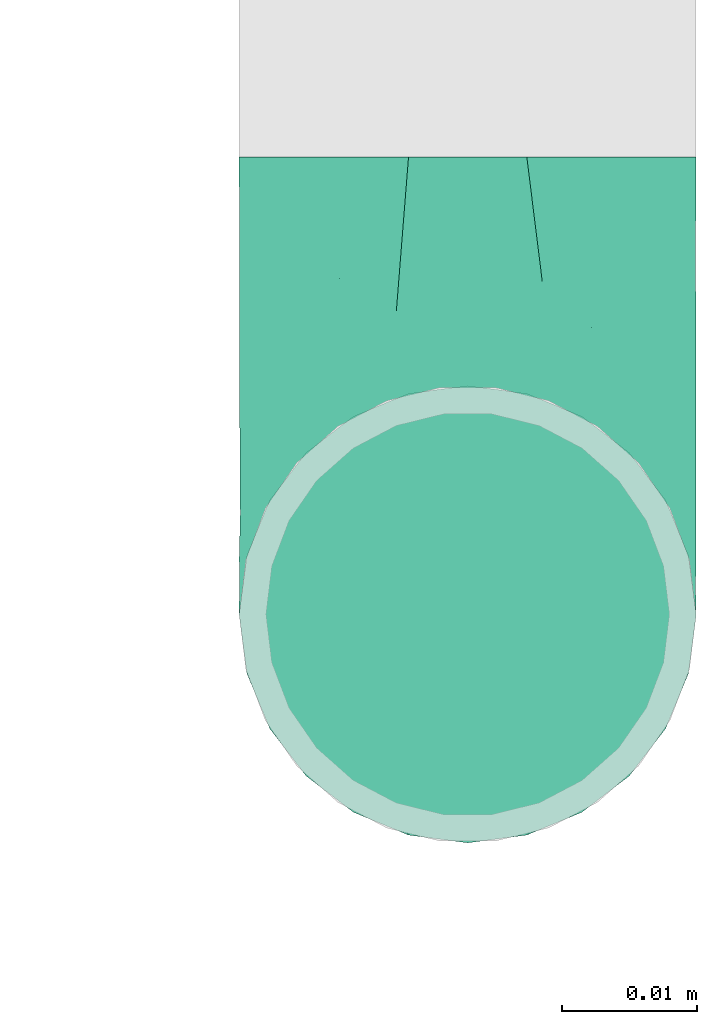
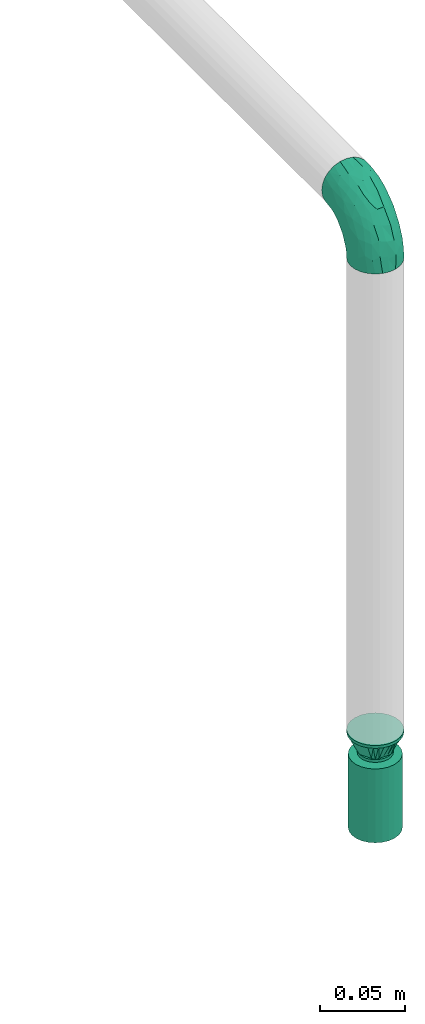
# One storey, part 14 of 17: 2 flow fittings, 1 flow terminal.
"""IFC2X3 building model written with IfcOpenShell, lengths in millimetres."""

from ifc_helpers import new_model, entity, si_unit, converted_unit, derived_unit, direction, frame, origin_with_axes, place, context, subcontext, project, spatial, open_shell, surface_model, source, transform, mapped, type_object, element, save


model = new_model("IFC2X3")

# Units and contexts
model_context = context("Model", 3, precision=0.01, world=frame((0.0, 4.29681676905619e-09, 0.0)), true_north=direction((4.01073788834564e-13, 1.0)))
plan_context = context("Plan", 3, precision=0.01, world=frame((0.0, 4.29681676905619e-09, 0.0)), true_north=direction((4.01073788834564e-13, 1.0)))
body_context = subcontext(model_context, "Body", "Model", "MODEL_VIEW")
ifc_project = project(units=[converted_unit("PLANEANGLEUNIT", "DEGREE", entity("IfcPositiveLengthMeasure", 0.0174532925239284), si_unit("PLANEANGLEUNIT", "RADIAN"), dimensions=[0, 0, 0, 0, 0, 0, 0]), si_unit("AREAUNIT", "SQUARE_METRE"), si_unit("LENGTHUNIT", "METRE", prefix="MILLI"), si_unit("MASSUNIT", "GRAM", prefix="KILO"), si_unit("POWERUNIT", "WATT"), si_unit("PRESSUREUNIT", "PASCAL", prefix="KILO"), si_unit("FORCEUNIT", "NEWTON", prefix="KILO"), si_unit("ELECTRICVOLTAGEUNIT", "VOLT"), si_unit("ELECTRICCURRENTUNIT", "AMPERE"), si_unit("THERMODYNAMICTEMPERATUREUNIT", "DEGREE_CELSIUS"), si_unit("TIMEUNIT", "SECOND"), si_unit("VOLUMEUNIT", "CUBIC_METRE"), derived_unit("LINEARVELOCITYUNIT", [(si_unit("LENGTHUNIT", "METRE"), 1), (si_unit("TIMEUNIT", "SECOND"), -1)]), derived_unit("VOLUMETRICFLOWRATEUNIT", [(si_unit("VOLUMEUNIT", "CUBIC_METRE"), 1), (si_unit("TIMEUNIT", "SECOND"), -1)]), derived_unit("THERMALTRANSMITTANCEUNIT", [(si_unit("POWERUNIT", "WATT"), 1), (si_unit("THERMODYNAMICTEMPERATUREUNIT", "KELVIN"), -1), (si_unit("AREAUNIT", "SQUARE_METRE"), -1)]), derived_unit("SOUNDPRESSUREUNIT", [(si_unit("PRESSUREUNIT", "PASCAL"), 1)])], contexts=[model_context, plan_context])

# Site, building, storey
site_placement = place(None, frame((0.0, -4.29681676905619e-09, 0.0), z_axis=(0.0, 0.0, 1.0), x_axis=(1.0, 0.0, 0.0)))
site = spatial("IfcSite", under=ifc_project, at=site_placement, CompositionType="ELEMENT")
building_placement = place(site_placement, frame((0.0, 4.29681676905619e-09, 0.0), z_axis=(0.0, 0.0, 1.0), x_axis=(1.0, 0.0, 0.0)))
building = spatial("IfcBuilding", under=site, at=building_placement, Name="mc-building", CompositionType="ELEMENT")
storey_placement = place(building_placement, frame((0.0, 0.0, 204000.0), z_axis=(0.0, 0.0, 1.0), x_axis=(1.0, 0.0, 0.0)))
storey = spatial("IfcBuildingStorey", under=building, at=storey_placement, Name="Nivå D", CompositionType="ELEMENT", Elevation=204000.0)

# Flow fittings
pipe_fitting_type_1 = type_object("IfcPipeFittingType", Name="magi_pipe_fe_elbow_short_001", PredefinedType="BEND")
shared_shape_1 = source(origin_with_axes(), body_context, "Body", "SurfaceModel", [
    surface_model("IfcShellBasedSurfaceModel", [(-33.8, 8.45, -14.63583), (-33.8, 4.37404, -16.32415), (-33.8, 11.9501, -11.9501), (-33.8, -11.9501, -11.9501), (-33.8, -14.63583, -8.45), (-33.8, -8.45, -14.63583), (-33.8, 0.0, -16.9), (-33.8, -4.37404, -16.32415), (-33.8, -4.37404, 16.32415), (-33.8, 0.0, 16.9), (-33.8, -8.45, 14.63583), (-33.8, 16.32415, -4.37404), (-33.8, 14.63583, -8.45), (-33.8, -16.32415, -4.37404), (-33.8, -16.9, 0.0), (-33.8, -16.32415, 4.37404), (-33.8, 11.9501, 11.9501), (-33.8, 14.63583, 8.45), (-33.8, 16.32415, 4.37404), (-33.8, 4.37404, 16.32415), (-33.8, 8.45, 14.63583), (-33.8, -14.63583, 8.45), (-33.8, -11.9501, 11.9501), (-33.8, 16.9, 0.0), (-11.9501, 33.8, -11.9501), (0.0, 33.8, -16.9), (-4.37404, 33.8, -16.32415), (-8.45, 33.8, -14.63583), (-14.63583, 33.8, -8.45), (-16.32415, 33.8, -4.37404), (14.63583, 33.8, -8.45), (8.45, 33.8, 14.63583), (16.32415, 33.8, -4.37404), (8.45, 33.8, -14.63583), (11.9501, 33.8, -11.9501), (4.37404, 33.8, -16.32415), (16.32415, 33.8, 4.37404), (16.9, 33.8, 0.0), (-11.9501, 33.8, 11.9501), (-16.32415, 33.8, 4.37404), (-14.63583, 33.8, 8.45), (-8.45, 33.8, 14.63583), (-4.37404, 33.8, 16.32415), (11.9501, 33.8, 11.9501), (14.63583, 33.8, 8.45), (0.0, 33.8, 16.9), (4.37404, 33.8, 16.32415), (-16.9, 33.8, 0.0), (-24.79389, -13.12945, 9.48721), (-22.19287, -9.75018, 12.59315), (-24.09897, -14.97035, 0.0), (-14.93934, -10.76256, 8.5297), (-22.46095, -14.75051, 5.27077), (14.75051, 22.46094, 5.27077), (11.9251, 13.23888, 4.33236), (13.04069, 14.39795, 0.0), (7.71387, 13.68847, 11.55891), (9.75018, 22.19287, 12.59315), (4.10169, 13.0571, 14.04018), (-24.84007, -6.39063, 15.2048), (-25.81779, -2.23879, 16.61097), (-23.66549, 2.59054, 16.87119), (-26.50418, 14.06512, 11.08152), (-24.21253, 17.66365, 7.72657), (-29.58514, 15.86957, 7.00283), (-6.17382, -7.5455, 0.0), (-13.23888, -11.9251, 4.33236), (-14.39795, -13.04069, 0.0), (-17.81434, 18.87373, 11.97104), (-6.30846, 29.15138, 15.82987), (-2.31622, 25.28002, 16.85849), (-29.23923, 10.23435, 13.77053), (-1.45439, -2.85688, 7.61475), (-0.28326, 0.34872, 10.09509), (-5.74484, -4.04709, 10.4122), (-4.41137, 11.31918, 16.59407), (-8.39727, 3.10034, 15.7812), (-1.72649, 9.1306, 15.53089), (-17.39909, 24.75344, 7.64977), (-26.19233, 20.0512, 0.0), (-28.14518, 17.29657, 4.25857), (-26.05147, 6.6281, 15.96447), (-5.87354, 16.61944, 16.86968), (-12.51807, 12.51807, 16.48937), (-10.06312, 7.38516, 16.81295), (-3.01882, 3.01882, 13.81718), (-13.0571, -4.10169, 14.04018), (-16.82553, -0.15166, 16.38038), (10.76256, 14.93934, 8.5297), (13.12945, 24.79389, 9.48721), (6.39063, 24.84007, 15.2048), (2.23879, 25.81779, 16.61097), (-13.68847, -7.71387, 11.55891), (14.97035, 24.09897, 0.0), (-7.30894, 22.89991, 16.09489), (-10.67958, 26.17414, 14.008), (-12.78295, 18.26924, 15.06066), (-13.88562, 22.45231, 12.93244), (-18.04944, 15.16501, 14.04434), (-23.11658, 20.08178, 4.02986), (-21.84989, 21.84989, 0.0), (-18.55817, 25.48277, 3.93065), (-13.95142, 26.94732, 11.03289), (-18.57098, 7.23906, 16.59756), (-16.58335, 4.14122, 16.89279), (-17.96666, 11.46709, 15.63151), (-9.84453, 17.54304, 16.18938), (0.15166, 16.82553, 16.38038), (-23.27207, 11.47201, 14.23154), (3.84842, 5.86994, 10.70473), (-8.0212, -7.54413, 7.93275), (1.00345, -2.19508, 4.57414), (5.13203, 3.01004, 5.90201), (5.24161, 1.7543, 2.53265), (8.70457, 7.04947, 3.99182), (-20.0512, 26.19233, 0.0), (8.4852, 8.76699, 7.09296), (-4.55488, -6.72064, 4.90681), (2.05031, -2.05031, 0.0), (7.5455, 6.17382, 0.0), (-26.75399, 2.1369, -16.845), (-14.61995, 24.73803, -11.27736), (-28.45274, -13.45335, -9.81895), (-26.00469, 6.63555, -15.96645), (-23.06726, 20.04573, -4.26202), (-13.80647, -4.26506, -14.17873), (-14.67501, -0.21081, -16.07388), (-6.7902, -0.2828, -13.8478), (-24.53586, 11.08096, -14.13417), (-26.72048, 14.00837, -11.05776), (10.0967, 24.44989, -12.75976), (5.83237, 21.40218, -15.03047), (6.66249, 28.54238, -15.38093), (-20.38182, 15.48705, -12.74596), (12.53268, 21.23441, -9.15363), (12.54494, 15.67504, -5.54878), (9.7522, 12.89279, -8.66343), (-15.65186, 19.64213, -13.01327), (-12.03528, 20.66498, -14.67665), (-15.61907, 15.61906, -14.83879), (-25.56551, -15.26206, 0.0), (-24.65452, -15.12934, -5.50955), (13.45335, 28.45274, -9.81895), (15.12934, 24.65452, -5.50955), (-7.35442, -8.31014, -5.65563), (-15.67504, -12.54494, -5.54878), (-24.44989, -10.0967, -12.75976), (0.16522, 0.41303, -9.71728), (-5.70658, -5.33066, -8.89288), (-5.13869, -2.37198, -11.53565), (-21.23441, -12.53268, -9.15363), (0.71146, 7.93863, -14.09382), (0.21081, 14.67501, -16.07388), (3.49291, 14.42772, -14.76381), (-24.89911, -2.13088, -16.591), (-28.54238, -6.66249, -15.38093), (-18.44386, -7.71663, -13.26957), (2.13088, 24.89911, -16.591), (-28.64342, 17.44413, -2.89318), (1.70017, -1.28722, -5.09504), (-16.57067, 26.81947, -7.36596), (-17.69055, 27.4263, -3.76405), (-12.89279, -9.7522, -8.66343), (-5.96611, 5.96611, -15.95814), (-20.53709, 20.09345, -8.28985), (-2.1369, 26.75399, -16.845), (-6.89872, 24.58781, -16.02578), (-10.60739, 26.53157, -13.98044), (-21.40218, -5.83237, -15.03047), (2.93192, 5.89627, -11.55917), (6.89393, 12.61842, -11.82233), (5.58056, 5.95325, -8.79455), (-3.99512, 18.61798, -16.89635), (8.31014, 7.35442, -5.65563), (-9.1383, 9.86148, -16.89041), (-9.99983, 16.02119, -16.39699), (-16.68576, 9.78031, -16.34199), (-27.01915, 16.61158, -7.12979), (15.26206, 25.56551, 0.0), (-18.61798, 3.99512, -16.89635), (-19.37495, 27.82495, 0.0), (-12.61842, -6.89393, -11.82233), (-18.84705, 19.14018, -10.96545)], [open_shell([[[0, 1, 2]], [[3, 4, 5]], [[6, 7, 5]], [[8, 9, 10]], [[1, 6, 2]], [[11, 12, 2]], [[4, 2, 6]], [[2, 13, 10]], [[5, 4, 6]], [[2, 4, 13]], [[14, 15, 13]], [[11, 2, 16]], [[11, 17, 18]], [[11, 16, 17]], [[19, 20, 16]], [[16, 2, 10]], [[19, 16, 10]], [[21, 22, 15]], [[22, 13, 15]], [[22, 10, 13]], [[10, 9, 19]], [[11, 18, 23]], [[24, 25, 26]], [[24, 26, 27]], [[24, 28, 29]], [[25, 24, 30]], [[31, 32, 24]], [[33, 30, 34]], [[33, 35, 25]], [[25, 30, 33]], [[32, 30, 24]], [[32, 36, 37]], [[38, 24, 29]], [[39, 40, 29]], [[40, 38, 29]], [[38, 41, 42]], [[38, 31, 24]], [[31, 38, 42]], [[36, 43, 44]], [[36, 32, 43]], [[31, 45, 46]], [[32, 31, 43]], [[42, 45, 31]], [[39, 29, 47]], [[22, 48, 49]], [[15, 14, 50]], [[51, 48, 52]], [[53, 54, 55]], [[48, 22, 21]], [[15, 52, 21]], [[56, 57, 58]], [[49, 10, 22]], [[49, 59, 10]], [[9, 60, 61]], [[62, 63, 64]], [[65, 66, 67]], [[57, 43, 31]], [[62, 68, 63]], [[42, 69, 70]], [[20, 71, 16]], [[8, 60, 9]], [[72, 73, 74]], [[75, 76, 77]], [[16, 62, 17]], [[40, 39, 78]], [[79, 23, 80]], [[64, 18, 17]], [[9, 61, 19]], [[19, 81, 20]], [[82, 83, 84]], [[74, 85, 86]], [[59, 86, 87]], [[88, 89, 57]], [[90, 31, 46]], [[44, 53, 36]], [[46, 45, 91]], [[54, 53, 88]], [[44, 89, 53]], [[92, 86, 49]], [[89, 44, 43]], [[10, 59, 8]], [[53, 55, 93]], [[93, 36, 53]], [[66, 52, 67]], [[94, 82, 70]], [[95, 96, 94]], [[97, 98, 96]], [[79, 99, 100]], [[41, 38, 95]], [[101, 100, 99]], [[68, 78, 63]], [[42, 41, 69]], [[23, 18, 80]], [[95, 94, 69]], [[78, 101, 99]], [[38, 102, 95]], [[70, 45, 42]], [[97, 95, 102]], [[15, 50, 52]], [[90, 57, 31]], [[57, 90, 58]], [[81, 19, 61]], [[103, 104, 84]], [[105, 81, 103]], [[38, 40, 102]], [[106, 96, 83]], [[94, 106, 82]], [[91, 70, 107]], [[71, 62, 16]], [[62, 108, 98]], [[86, 59, 49]], [[67, 52, 50]], [[60, 59, 87]], [[92, 49, 51]], [[86, 85, 76]], [[91, 90, 46]], [[37, 36, 93]], [[107, 77, 58]], [[107, 58, 90]], [[58, 85, 109]], [[110, 74, 92]], [[72, 74, 110]], [[66, 51, 52]], [[72, 111, 112]], [[113, 114, 112]], [[56, 88, 57]], [[52, 48, 21]], [[49, 48, 51]], [[57, 89, 43]], [[53, 89, 88]], [[103, 81, 61]], [[71, 81, 108]], [[18, 64, 80]], [[63, 78, 99]], [[47, 115, 101]], [[101, 115, 100]], [[40, 78, 102]], [[68, 102, 78]], [[97, 96, 95]], [[105, 98, 108]], [[103, 84, 83]], [[107, 70, 82]], [[76, 84, 87]], [[82, 84, 75]], [[70, 91, 45]], [[90, 91, 107]], [[59, 60, 8]], [[61, 60, 87]], [[73, 85, 74]], [[109, 112, 116]], [[103, 61, 104]], [[105, 103, 83]], [[96, 105, 83]], [[81, 105, 108]], [[96, 98, 105]], [[62, 98, 68]], [[61, 87, 104]], [[87, 84, 104]], [[86, 76, 87]], [[77, 76, 85]], [[58, 77, 85]], [[75, 77, 107]], [[82, 75, 107]], [[76, 75, 84]], [[81, 71, 20]], [[62, 71, 108]], [[95, 69, 41]], [[70, 69, 94]], [[62, 64, 17]], [[80, 63, 99]], [[63, 80, 64]], [[80, 99, 79]], [[66, 65, 117]], [[110, 66, 117]], [[112, 114, 116]], [[118, 117, 65]], [[110, 92, 51]], [[112, 111, 113]], [[119, 55, 54]], [[74, 86, 92]], [[58, 109, 56]], [[116, 56, 109]], [[66, 110, 51]], [[72, 110, 117]], [[111, 72, 117]], [[73, 112, 109]], [[117, 118, 111]], [[113, 111, 118]], [[118, 119, 113]], [[114, 119, 54]], [[119, 114, 113]], [[116, 54, 88]], [[54, 116, 114]], [[116, 88, 56]], [[112, 73, 72]], [[85, 73, 109]], [[78, 39, 101]], [[47, 101, 39]], [[102, 68, 97]], [[97, 68, 98]], [[82, 106, 83]], [[94, 96, 106]], [[1, 120, 6]], [[28, 24, 121]], [[3, 122, 4]], [[0, 123, 1]], [[100, 124, 79]], [[125, 126, 127]], [[128, 2, 129]], [[130, 131, 132]], [[128, 129, 133]], [[134, 135, 136]], [[137, 138, 139]], [[128, 0, 2]], [[67, 140, 141]], [[134, 142, 143]], [[141, 13, 4]], [[144, 65, 145]], [[146, 3, 5]], [[147, 148, 149]], [[145, 141, 150]], [[151, 152, 153]], [[154, 7, 6]], [[5, 155, 146]], [[150, 146, 156]], [[155, 5, 7]], [[143, 135, 134]], [[35, 157, 25]], [[23, 79, 158]], [[148, 159, 144]], [[160, 161, 29]], [[145, 162, 144]], [[163, 152, 151]], [[29, 28, 160]], [[121, 164, 160]], [[33, 34, 130]], [[25, 165, 26]], [[26, 165, 166]], [[142, 34, 30]], [[24, 27, 167]], [[124, 161, 164]], [[157, 35, 132]], [[155, 154, 168]], [[123, 0, 128]], [[169, 170, 171]], [[172, 157, 152]], [[26, 166, 27]], [[132, 35, 33]], [[142, 130, 34]], [[168, 154, 126]], [[136, 135, 173]], [[133, 137, 139]], [[2, 12, 129]], [[170, 131, 130]], [[30, 32, 143]], [[172, 174, 175]], [[176, 123, 128]], [[158, 177, 11]], [[135, 55, 119]], [[167, 27, 166]], [[175, 166, 172]], [[137, 167, 138]], [[122, 141, 4]], [[140, 14, 13]], [[32, 37, 178]], [[170, 130, 134]], [[152, 157, 131]], [[165, 157, 172]], [[153, 170, 151]], [[152, 163, 174]], [[168, 125, 156]], [[122, 146, 150]], [[120, 154, 6]], [[179, 174, 126]], [[179, 126, 154]], [[126, 163, 127]], [[162, 145, 150]], [[140, 13, 141]], [[32, 178, 143]], [[55, 143, 178]], [[177, 129, 12]], [[128, 133, 139]], [[176, 128, 139]], [[120, 123, 179]], [[121, 160, 28]], [[161, 100, 180]], [[166, 175, 138]], [[121, 24, 167]], [[161, 47, 29]], [[79, 124, 158]], [[124, 164, 177]], [[161, 124, 100]], [[136, 171, 170]], [[127, 163, 151]], [[147, 171, 159]], [[148, 144, 162]], [[127, 151, 169]], [[127, 181, 125]], [[129, 177, 164]], [[12, 11, 177]], [[159, 65, 144]], [[67, 141, 145]], [[143, 55, 135]], [[135, 119, 173]], [[123, 120, 1]], [[154, 120, 179]], [[157, 165, 25]], [[166, 165, 172]], [[172, 152, 174]], [[176, 139, 175]], [[126, 174, 163]], [[176, 174, 179]], [[174, 176, 175]], [[123, 176, 179]], [[150, 181, 162]], [[127, 149, 181]], [[181, 148, 162]], [[159, 148, 147]], [[171, 136, 173]], [[170, 134, 136]], [[159, 171, 173]], [[171, 147, 169]], [[169, 147, 149]], [[151, 170, 169]], [[164, 182, 129]], [[182, 121, 137]], [[181, 149, 148]], [[169, 149, 127]], [[182, 137, 133]], [[167, 137, 121]], [[166, 138, 167]], [[175, 139, 138]], [[129, 182, 133]], [[121, 182, 164]], [[161, 160, 164]], [[47, 161, 180]], [[177, 158, 124]], [[23, 158, 11]], [[130, 132, 33]], [[157, 132, 131]], [[143, 142, 30]], [[130, 142, 134]], [[154, 155, 7]], [[146, 155, 168]], [[146, 122, 3]], [[141, 122, 150]], [[152, 131, 153]], [[159, 119, 118]], [[67, 145, 65]], [[170, 153, 131]], [[119, 159, 173]], [[159, 118, 65]], [[156, 125, 181]], [[126, 125, 168]], [[150, 156, 181]], [[168, 156, 146]]])]),
])
flow_fitting_1_placement = place(storey_placement, frame((602552.91449, 404050.01942, 2790.0), z_axis=(-1.0, 0.0, 0.0), x_axis=(0.0, 0.0, 1.0)))
element("IfcFlowFitting", 1, at=flow_fitting_1_placement, inside=storey, type_object=pipe_fitting_type_1, Name="magi_pipe_fe_elbow_short_001", context=body_context, shape_type="MappedRepresentation", body=[
    mapped(shared_shape_1, transform((0.0, 0.0, 0.0), scale=1.0)),
])
pipe_fitting_type_2 = type_object("IfcPipeFittingType", Name="magi_pipe_fe_reducer_centric_short_NOR", PredefinedType="TRANSITION")
shared_shape_2 = source(origin_with_axes(), body_context, "Body", "SurfaceModel", [
    surface_model("IfcShellBasedSurfaceModel", [(-2.0, -7.56604, -7.56604), (-2.0, -10.33541, -2.76936), (-2.0, -5.35, -9.26647), (-2.0, 5.35, -9.26647), (-2.0, 10.33541, -2.76936), (-2.0, 7.56604, -7.56604), (12.4, 11.9501, 11.9501), (12.4, 0.0, 16.9), (12.4, 11.9501, -11.9501), (12.4, 16.9, 0.0), (0.0, -10.7, 0.0), (0.0, -5.35, 9.26647), (0.0, -5.35, -9.26647), (0.0, 10.7, 0.0), (12.4, 15.66253, -2.98753), (12.4, 8.96258, -13.18758), (0.0, 6.6875, -6.94985), (12.4, -15.66253, -2.98753), (12.4, -16.9, 0.0), (12.4, 5.97505, -14.42505), (0.0, 5.35, -9.26647), (12.4, 14.42505, -5.97505), (0.0, 8.025, -4.63324), (0.0, 9.3625, -2.31662), (0.0, -9.3625, -2.31662), (0.0, -8.025, -4.63324), (12.4, -14.42505, -5.97505), (12.4, 13.18758, -8.96258), (12.4, -13.18758, -8.96258), (12.4, -11.9501, -11.9501), (0.0, -6.6875, -6.94985), (12.4, -8.96258, -13.18758), (12.4, -5.97505, -14.42505), (12.4, -15.66253, 2.98753), (12.4, -8.96258, 13.18758), (0.0, -6.6875, 6.94985), (12.4, -11.9501, 11.9501), (12.4, 15.66253, 2.98753), (12.4, -5.97505, 14.42505), (12.4, -14.42505, 5.97505), (0.0, -8.025, 4.63324), (0.0, -9.3625, 2.31662), (0.0, 9.3625, 2.31662), (0.0, 8.025, 4.63324), (12.4, 14.42505, 5.97505), (12.4, -13.18758, 8.96258), (12.4, 13.18758, 8.96258), (0.0, 6.6875, 6.94985), (12.4, 8.96258, 13.18758), (0.0, 5.35, 9.26647), (12.4, 5.97505, 14.42505), (14.4, 4.37404, -16.32415), (14.4, 8.45, -14.63583), (14.4, 11.9501, -11.9501), (14.4, -8.45, -14.63583), (14.4, 16.32415, -4.37404), (14.4, 16.32415, 4.37404), (14.4, 14.63583, -8.45), (14.4, 0.0, -16.9), (14.4, -4.37404, -16.32415), (14.4, -11.9501, -11.9501), (14.4, -16.32415, -4.37404), (14.4, -14.63583, -8.45), (14.4, -16.32415, 4.37404), (14.4, 16.9, 0.0), (14.4, 14.63583, 8.45), (14.4, 11.9501, 11.9501), (14.4, 4.37404, 16.32415), (14.4, 8.45, 14.63583), (14.4, 0.0, 16.9), (14.4, -14.63583, 8.45), (14.4, -16.9, 0.0), (14.4, -8.45, 14.63583), (14.4, -11.9501, 11.9501), (14.4, -4.37404, 16.32415), (12.4, 4.37404, 16.32415), (12.4, -14.63583, 8.45), (12.4, 16.32415, 4.37404), (12.4, 8.45, 14.63583), (12.4, 14.63583, 8.45), (12.4, -8.45, 14.63583), (12.4, -4.37404, 16.32415), (12.4, -16.32415, 4.37404), (12.4, -16.32415, -4.37404), (12.4, -8.45, -14.63583), (12.4, 16.32415, -4.37404), (12.4, 14.63583, -8.45), (12.4, 8.45, -14.63583), (12.4, 4.37404, -16.32415), (12.4, 0.0, -16.9), (12.4, -14.63583, -8.45), (12.4, -4.37404, -16.32415), (-2.0, 2.76936, 10.33541), (-2.0, 0.0, 10.7), (-2.0, 5.35, 9.26647), (-2.0, 7.56604, 7.56604), (-2.0, 9.26647, 5.35), (-2.0, 10.33541, 2.76936), (-2.0, -10.33541, 2.76936), (-2.0, -2.76936, 10.33541), (-2.0, -7.56604, 7.56604), (-2.0, -5.35, 9.26647), (-2.0, -9.26647, 5.35), (-2.0, -10.7, 0.0), (-2.0, 9.26647, -5.35), (-2.0, 2.76936, -10.33541), (-2.0, -9.26647, -5.35), (-2.0, 0.0, -10.7), (-2.0, -2.76936, -10.33541), (-2.0, 10.7, 0.0), (0.0, 0.0, -10.7), (0.0, 2.76936, -10.33541), (0.0, 10.33541, -2.76936), (0.0, 7.56604, -7.56604), (0.0, -10.33541, -2.76936), (0.0, 9.26647, -5.35), (0.0, 0.0, 10.7), (0.0, -2.76936, -10.33541), (0.0, -7.56604, -7.56604), (0.0, -9.26647, -5.35), (0.0, 10.33541, 2.76936), (0.0, 9.26647, 5.35), (0.0, 7.56604, 7.56604), (0.0, 2.76936, 10.33541), (0.0, -7.56604, 7.56604), (0.0, -10.33541, 2.76936), (0.0, -9.26647, 5.35), (0.0, -2.76936, 10.33541), (0.0, 2.675, -9.26647), (0.0, -2.675, -9.26647), (12.4, 2.98753, -15.66253), (0.0, 0.0, -9.26647), (12.4, -2.98753, -15.66253), (0.0, -2.675, 9.26647), (0.0, 2.675, 9.26647), (12.4, -2.98753, 15.66253), (0.0, 0.0, 9.26647), (12.4, 2.98753, 15.66253)], [open_shell([[[0, 1, 2]], [[3, 4, 5]], [[6, 7, 8]], [[8, 9, 6]], [[10, 11, 12]], [[13, 9, 14]], [[15, 16, 8]], [[17, 18, 10]], [[15, 19, 20]], [[21, 22, 23]], [[24, 25, 26]], [[22, 21, 27]], [[28, 26, 25]], [[29, 30, 31]], [[12, 32, 31]], [[10, 18, 33]], [[34, 35, 36]], [[37, 9, 13]], [[34, 38, 11]], [[39, 40, 41]], [[42, 43, 44]], [[40, 39, 45]], [[46, 44, 43]], [[6, 47, 48]], [[49, 50, 48]], [[51, 52, 53]], [[54, 51, 53]], [[53, 55, 56]], [[55, 53, 57]], [[53, 56, 54]], [[58, 54, 59]], [[58, 51, 54]], [[60, 61, 62]], [[61, 60, 54]], [[54, 63, 61]], [[56, 55, 64]], [[56, 65, 66]], [[56, 66, 67]], [[67, 63, 54]], [[67, 66, 68]], [[63, 67, 69]], [[69, 70, 63]], [[71, 61, 63]], [[70, 72, 73]], [[70, 69, 72]], [[72, 69, 74]], [[54, 56, 67]], [[75, 76, 7]], [[77, 75, 78]], [[6, 79, 77]], [[6, 77, 78]], [[76, 75, 77]], [[80, 76, 36]], [[80, 81, 7]], [[7, 76, 80]], [[82, 76, 77]], [[82, 83, 18]], [[82, 77, 84]], [[77, 85, 8]], [[8, 85, 86]], [[8, 87, 88]], [[84, 77, 8]], [[88, 89, 8]], [[83, 29, 90]], [[29, 83, 84]], [[84, 89, 91]], [[83, 82, 84]], [[8, 89, 84]], [[85, 77, 9]], [[83, 61, 18]], [[90, 62, 83]], [[54, 29, 84]], [[90, 29, 60]], [[59, 84, 91]], [[83, 62, 61]], [[61, 71, 18]], [[59, 54, 84]], [[60, 29, 54]], [[60, 62, 90]], [[58, 59, 91]], [[91, 89, 58]], [[88, 51, 89]], [[87, 52, 88]], [[57, 8, 86]], [[87, 8, 53]], [[55, 86, 85]], [[87, 53, 52]], [[52, 51, 88]], [[64, 55, 85]], [[57, 86, 55]], [[57, 53, 8]], [[9, 64, 85]], [[89, 51, 58]], [[77, 56, 9]], [[79, 65, 77]], [[68, 6, 78]], [[79, 6, 66]], [[67, 78, 75]], [[77, 65, 56]], [[56, 64, 9]], [[67, 68, 78]], [[66, 6, 68]], [[66, 65, 79]], [[69, 67, 75]], [[75, 7, 69]], [[81, 74, 7]], [[80, 72, 81]], [[70, 36, 76]], [[80, 36, 73]], [[63, 76, 82]], [[80, 73, 72]], [[72, 74, 81]], [[71, 63, 82]], [[70, 76, 63]], [[70, 73, 36]], [[18, 71, 82]], [[7, 74, 69]], [[92, 1, 93]], [[94, 1, 92]], [[95, 96, 97]], [[95, 97, 94]], [[98, 93, 1]], [[99, 100, 101]], [[99, 93, 100]], [[100, 98, 102]], [[93, 98, 100]], [[98, 1, 103]], [[94, 97, 1]], [[1, 97, 4]], [[5, 4, 104]], [[4, 3, 1]], [[105, 1, 3]], [[1, 0, 106]], [[2, 107, 108]], [[2, 1, 105]], [[105, 107, 2]], [[4, 97, 109]], [[20, 110, 111]], [[112, 20, 113]], [[114, 20, 112]], [[112, 113, 115]], [[116, 114, 112]], [[110, 12, 117]], [[110, 20, 12]], [[118, 114, 119]], [[114, 118, 12]], [[20, 114, 12]], [[112, 13, 120]], [[120, 121, 122]], [[120, 122, 123]], [[116, 112, 123]], [[123, 122, 49]], [[116, 124, 114]], [[125, 124, 126]], [[10, 114, 125]], [[124, 127, 11]], [[125, 114, 124]], [[127, 124, 116]], [[123, 112, 120]], [[1, 114, 103]], [[106, 119, 1]], [[12, 0, 2]], [[106, 0, 118]], [[117, 2, 108]], [[1, 119, 114]], [[114, 10, 103]], [[117, 12, 2]], [[118, 0, 12]], [[118, 119, 106]], [[110, 117, 108]], [[108, 107, 110]], [[105, 111, 107]], [[3, 20, 105]], [[115, 5, 104]], [[3, 5, 113]], [[112, 104, 4]], [[3, 113, 20]], [[20, 111, 105]], [[13, 112, 4]], [[115, 104, 112]], [[115, 113, 5]], [[109, 13, 4]], [[107, 111, 110]], [[97, 120, 109]], [[96, 121, 97]], [[49, 95, 94]], [[96, 95, 122]], [[123, 94, 92]], [[97, 121, 120]], [[120, 13, 109]], [[123, 49, 94]], [[122, 95, 49]], [[122, 121, 96]], [[116, 123, 92]], [[92, 93, 116]], [[99, 127, 93]], [[101, 11, 99]], [[126, 100, 102]], [[101, 100, 124]], [[125, 102, 98]], [[101, 124, 11]], [[11, 127, 99]], [[10, 125, 98]], [[126, 102, 125]], [[126, 124, 100]], [[103, 10, 98]], [[93, 127, 116]], [[18, 7, 36]], [[18, 29, 8]], [[89, 8, 29]], [[18, 8, 7]], [[13, 11, 49]], [[13, 20, 12]], [[13, 12, 11]], [[24, 26, 17]], [[10, 24, 17]], [[16, 15, 20]], [[30, 12, 31]], [[23, 14, 21]], [[19, 128, 20]], [[27, 8, 16]], [[32, 12, 129]], [[30, 28, 25]], [[130, 131, 128]], [[129, 132, 32]], [[16, 22, 27]], [[13, 14, 23]], [[128, 19, 130]], [[130, 89, 131]], [[131, 132, 129]], [[89, 132, 131]], [[28, 30, 29]], [[42, 44, 37]], [[13, 42, 37]], [[35, 34, 11]], [[47, 49, 48]], [[41, 33, 39]], [[38, 133, 11]], [[45, 36, 35]], [[50, 49, 134]], [[47, 46, 43]], [[135, 136, 133]], [[134, 137, 50]], [[35, 40, 45]], [[10, 33, 41]], [[133, 38, 135]], [[135, 7, 136]], [[136, 137, 134]], [[7, 137, 136]], [[46, 47, 6]]])]),
])
flow_fitting_2_placement = place(storey_placement, frame((602552.91449, 404050.01942, 2403.04800000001), z_axis=(0.0, 1.0, 0.0), x_axis=(0.0, 0.0, 1.0)))
element("IfcFlowFitting", 2, at=flow_fitting_2_placement, inside=storey, type_object=pipe_fitting_type_2, Name="magi_pipe_fe_reducer_centric_short_NOR", context=body_context, shape_type="MappedRepresentation", body=[
    mapped(shared_shape_2, transform((0.0, 0.0, 0.0), scale=1.0)),
])

# Flow terminal
fire_suppression_terminal_type = type_object("IfcFireSuppressionTerminalType", Name="SP-15-K80-68DGR-STD", PredefinedType="NOTDEFINED")
shared_shape_3 = source(origin_with_axes(), body_context, "Body", "SurfaceModel", [
    surface_model("IfcShellBasedSurfaceModel", [(4.1411, -15.45481, 53.0), (8.0, -13.85641, 53.0), (11.31371, -11.31371, 53.0), (-8.0, -13.85641, 53.0), (15.45481, -4.1411, 53.0), (16.0, 0.0, 53.0), (13.85641, -8.0, 53.0), (0.0, -16.0, 53.0), (-4.1411, -15.45481, 53.0), (-13.85641, -8.0, 53.0), (-11.31371, -11.31371, 53.0), (-15.45481, -4.1411, 53.0), (15.45481, 4.1411, 53.0), (13.85641, 8.0, 53.0), (11.31371, 11.31371, 53.0), (-4.1411, 15.45481, 53.0), (8.0, 13.85641, 53.0), (4.1411, 15.45481, 53.0), (0.0, 16.0, 53.0), (-13.85641, 8.0, 53.0), (-15.45481, 4.1411, 53.0), (-16.0, 0.0, 53.0), (-11.31371, 11.31371, 53.0), (-8.0, 13.85641, 53.0), (0.0, 16.0, 0.0), (4.1411, 15.45481, 0.0), (8.0, 13.85641, 0.0), (-4.1411, 15.45481, 0.0), (11.31371, 11.31371, 0.0), (13.85641, 8.0, 0.0), (15.45481, 4.1411, 0.0), (-15.45481, -4.1411, 0.0), (-11.31371, 11.31371, 0.0), (-8.0, 13.85641, 0.0), (-13.85641, 8.0, 0.0), (-15.45481, 4.1411, 0.0), (-16.0, 0.0, 0.0), (4.1411, -15.45481, 0.0), (16.0, 0.0, 0.0), (15.45481, -4.1411, 0.0), (13.85641, -8.0, 0.0), (11.31371, -11.31371, 0.0), (8.0, -13.85641, 0.0), (-8.0, -13.85641, 0.0), (-13.85641, -8.0, 0.0), (-11.31371, -11.31371, 0.0), (0.0, -16.0, 0.0), (-4.1411, -15.45481, 0.0)], [open_shell([[[0, 1, 2]], [[3, 0, 2]], [[4, 5, 2]], [[4, 2, 6]], [[3, 2, 5]], [[7, 3, 8]], [[7, 0, 3]], [[3, 9, 10]], [[9, 3, 11]], [[5, 11, 3]], [[5, 12, 11]], [[12, 13, 14]], [[15, 12, 14]], [[16, 17, 18]], [[14, 16, 15]], [[18, 15, 16]], [[11, 19, 20]], [[21, 11, 20]], [[22, 15, 23]], [[15, 22, 19]], [[19, 11, 15]], [[11, 12, 15]], [[24, 25, 26]], [[27, 24, 26]], [[28, 29, 30]], [[27, 26, 28]], [[27, 28, 31]], [[27, 32, 33]], [[32, 27, 34]], [[34, 31, 35]], [[31, 34, 27]], [[35, 31, 36]], [[28, 30, 31]], [[37, 38, 39]], [[37, 39, 40]], [[41, 42, 37]], [[41, 37, 40]], [[38, 37, 43]], [[44, 43, 45]], [[43, 44, 31]], [[43, 46, 47]], [[43, 31, 38]], [[37, 46, 43]], [[38, 31, 30]], [[11, 31, 44]], [[45, 9, 44]], [[3, 43, 47]], [[45, 43, 10]], [[8, 47, 46]], [[31, 21, 36]], [[31, 11, 21]], [[44, 9, 11]], [[45, 10, 9]], [[3, 10, 43]], [[47, 8, 3]], [[46, 7, 8]], [[0, 37, 42]], [[41, 1, 42]], [[6, 40, 39]], [[41, 40, 2]], [[4, 39, 38]], [[37, 0, 7]], [[42, 1, 0]], [[41, 2, 1]], [[40, 6, 2]], [[4, 6, 39]], [[38, 5, 4]], [[37, 7, 46]], [[12, 38, 30]], [[13, 30, 29]], [[16, 26, 25]], [[17, 25, 24]], [[30, 13, 12]], [[12, 5, 38]], [[28, 14, 13]], [[28, 26, 14]], [[14, 26, 16]], [[25, 17, 16]], [[28, 13, 29]], [[24, 18, 17]], [[15, 27, 33]], [[32, 23, 33]], [[19, 34, 35]], [[32, 34, 22]], [[20, 35, 36]], [[27, 15, 18]], [[33, 23, 15]], [[32, 22, 23]], [[34, 19, 22]], [[20, 19, 35]], [[36, 21, 20]], [[27, 18, 24]]])]),
])
flow_terminal_placement = place(storey_placement, frame((602552.91449, 404050.01942, 2400.0), z_axis=(0.0, 0.0, -1.0), x_axis=(1.0, 0.0, 0.0)))
element("IfcFlowTerminal", 3, at=flow_terminal_placement, inside=storey, type_object=fire_suppression_terminal_type, Name="SP-15-K80-68DGR-STD", context=body_context, shape_type="MappedRepresentation", body=[
    mapped(shared_shape_3, transform((0.0, 0.0, 0.0), scale=1.0)),
])

save(model, "model.ifc")
